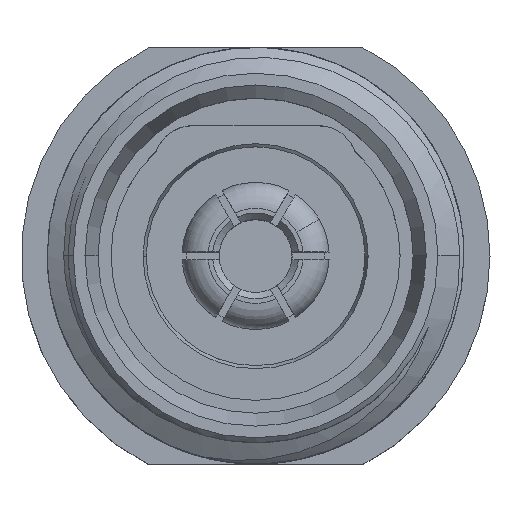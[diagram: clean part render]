
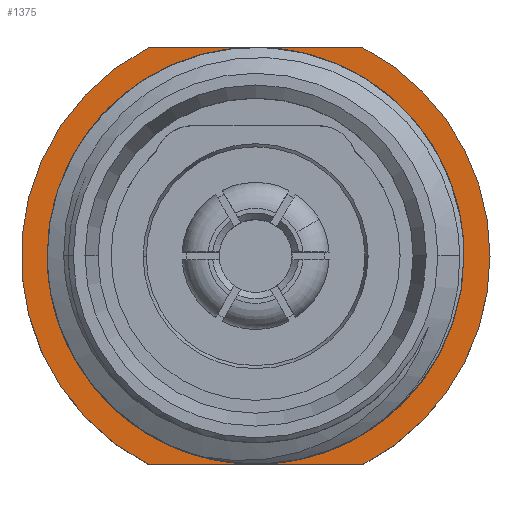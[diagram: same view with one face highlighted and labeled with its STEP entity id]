
A CAD part, top view. The second image highlights one B-rep face of the part: STEP entity #1375.
In plain terms, the highlighted planar face has unit normal (0, 0, 1).
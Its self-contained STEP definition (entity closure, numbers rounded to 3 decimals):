
#54 = VERTEX_POINT ( 'NONE', #1910 ) ;
#129 = VECTOR ( 'NONE', #3152, 1000. ) ;
#404 = CIRCLE ( 'NONE', #7632, 9. ) ;
#515 = ORIENTED_EDGE ( 'NONE', *, *, #3742, .F. ) ;
#528 = CARTESIAN_POINT ( 'NONE',  ( 0., 7.85, 1.25 ) ) ;
#552 = VERTEX_POINT ( 'NONE', #6414 ) ;
#592 = VERTEX_POINT ( 'NONE', #7462 ) ;
#793 = DIRECTION ( 'NONE',  ( 0., 0., 1. ) ) ;
#845 = EDGE_CURVE ( 'NONE', #4730, #592, #2702, .T. ) ;
#1079 = ORIENTED_EDGE ( 'NONE', *, *, #845, .T. ) ;
#1088 = ORIENTED_EDGE ( 'NONE', *, *, #2281, .T. ) ;
#1202 = VECTOR ( 'NONE', #6802, 1000. ) ;
#1375 = ADVANCED_FACE ( 'NONE', ( #3758, #3004 ), #1781, .F. ) ;
#1480 = CIRCLE ( 'NONE', #4702, 7.85 ) ;
#1781 = PLANE ( 'NONE',  #3957 ) ;
#1910 = CARTESIAN_POINT ( 'NONE',  ( -4.123, 8., 1.25 ) ) ;
#1936 = EDGE_CURVE ( 'NONE', #54, #2436, #5224, .T. ) ;
#2127 = CARTESIAN_POINT ( 'NONE',  ( 0., 0., 1.25 ) ) ;
#2272 = CARTESIAN_POINT ( 'NONE',  ( 0., 8., 1.25 ) ) ;
#2281 = EDGE_CURVE ( 'NONE', #552, #4730, #404, .T. ) ;
#2436 = VERTEX_POINT ( 'NONE', #5724 ) ;
#2504 = EDGE_LOOP ( 'NONE', ( #3269, #2507 ) ) ;
#2507 = ORIENTED_EDGE ( 'NONE', *, *, #3417, .F. ) ;
#2702 = CIRCLE ( 'NONE', #7910, 9. ) ;
#2907 = LINE ( 'NONE', #2272, #129 ) ;
#3004 = FACE_OUTER_BOUND ( 'NONE', #4945, .T. ) ;
#3044 = DIRECTION ( 'NONE',  ( 0., 0., -1. ) ) ;
#3152 = DIRECTION ( 'NONE',  ( 1., 0., 0. ) ) ;
#3230 = ORIENTED_EDGE ( 'NONE', *, *, #3792, .F. ) ;
#3269 = ORIENTED_EDGE ( 'NONE', *, *, #7570, .F. ) ;
#3417 = EDGE_CURVE ( 'NONE', #3514, #3647, #1480, .T. ) ;
#3514 = VERTEX_POINT ( 'NONE', #4929 ) ;
#3647 = VERTEX_POINT ( 'NONE', #6087 ) ;
#3742 = EDGE_CURVE ( 'NONE', #552, #2436, #7479, .T. ) ;
#3758 = FACE_BOUND ( 'NONE', #2504, .T. ) ;
#3792 = EDGE_CURVE ( 'NONE', #54, #592, #2907, .T. ) ;
#3957 = AXIS2_PLACEMENT_3D ( 'NONE', #528, #3044, #8145 ) ;
#4125 = DIRECTION ( 'NONE',  ( 0., 0., 1. ) ) ;
#4246 = CARTESIAN_POINT ( 'NONE',  ( 0., -8., 1.25 ) ) ;
#4470 = DIRECTION ( 'NONE',  ( 1., 0., 0. ) ) ;
#4671 = CARTESIAN_POINT ( 'NONE',  ( 0., 0., 1.25 ) ) ;
#4698 = DIRECTION ( 'NONE',  ( 0., 0., 1. ) ) ;
#4702 = AXIS2_PLACEMENT_3D ( 'NONE', #4671, #4125, #4796 ) ;
#4730 = VERTEX_POINT ( 'NONE', #8144 ) ;
#4796 = DIRECTION ( 'NONE',  ( 1., 0., 0. ) ) ;
#4929 = CARTESIAN_POINT ( 'NONE',  ( -7.85, 0., 1.25 ) ) ;
#4945 = EDGE_LOOP ( 'NONE', ( #515, #1088, #1079, #3230, #6373 ) ) ;
#5109 = DIRECTION ( 'NONE',  ( 0., 0., 1. ) ) ;
#5224 = CIRCLE ( 'NONE', #7506, 9. ) ;
#5230 = CARTESIAN_POINT ( 'NONE',  ( 0., 0., 1.25 ) ) ;
#5724 = CARTESIAN_POINT ( 'NONE',  ( -4.123, -8., 1.25 ) ) ;
#5895 = DIRECTION ( 'NONE',  ( 0., 0., 1. ) ) ;
#5903 = DIRECTION ( 'NONE',  ( 1., 0., 0. ) ) ;
#6087 = CARTESIAN_POINT ( 'NONE',  ( 7.85, 0., 1.25 ) ) ;
#6373 = ORIENTED_EDGE ( 'NONE', *, *, #1936, .T. ) ;
#6414 = CARTESIAN_POINT ( 'NONE',  ( 4.123, -8., 1.25 ) ) ;
#6527 = DIRECTION ( 'NONE',  ( 1., 0., 0. ) ) ;
#6802 = DIRECTION ( 'NONE',  ( -1., 0., 0. ) ) ;
#7040 = CIRCLE ( 'NONE', #7447, 7.85 ) ;
#7162 = CARTESIAN_POINT ( 'NONE',  ( 0., 0., 1.25 ) ) ;
#7291 = DIRECTION ( 'NONE',  ( 1., 0., 0. ) ) ;
#7447 = AXIS2_PLACEMENT_3D ( 'NONE', #2127, #4698, #7291 ) ;
#7462 = CARTESIAN_POINT ( 'NONE',  ( 4.123, 8., 1.25 ) ) ;
#7479 = LINE ( 'NONE', #4246, #1202 ) ;
#7506 = AXIS2_PLACEMENT_3D ( 'NONE', #5230, #5895, #6527 ) ;
#7570 = EDGE_CURVE ( 'NONE', #3647, #3514, #7040, .T. ) ;
#7632 = AXIS2_PLACEMENT_3D ( 'NONE', #7162, #793, #5903 ) ;
#7910 = AXIS2_PLACEMENT_3D ( 'NONE', #8280, #5109, #4470 ) ;
#8144 = CARTESIAN_POINT ( 'NONE',  ( 9., 0., 1.25 ) ) ;
#8145 = DIRECTION ( 'NONE',  ( -1., 0., 0. ) ) ;
#8280 = CARTESIAN_POINT ( 'NONE',  ( 0., 0., 1.25 ) ) ;
